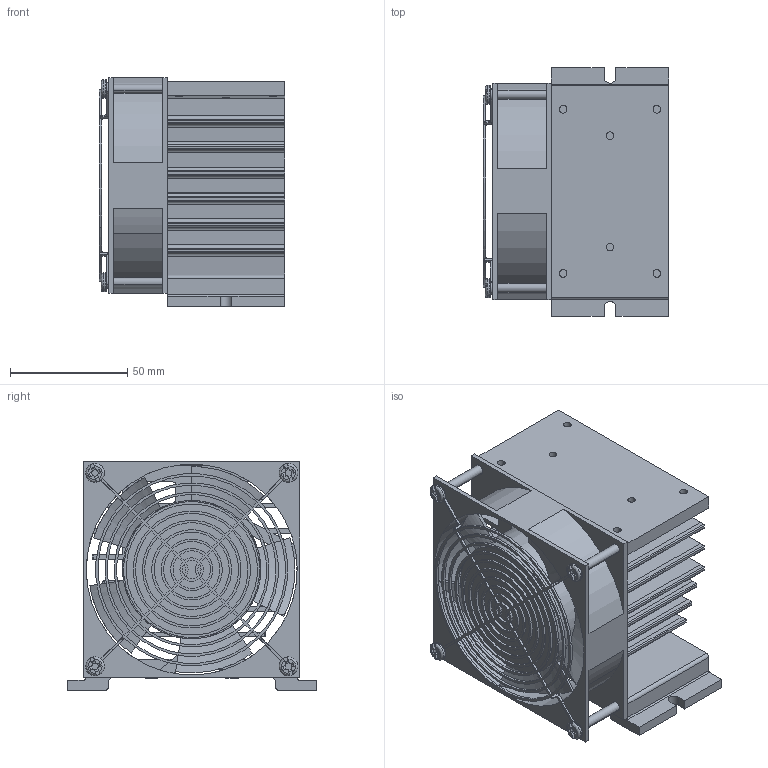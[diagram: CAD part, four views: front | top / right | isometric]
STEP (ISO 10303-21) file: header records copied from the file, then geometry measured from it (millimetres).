
FILE_DESCRIPTION (( 'STEP AP214' ), '1' );
FILE_NAME ('HS_015.STEP', '2024-04-16T09:05:47', ( '' ), ( '' ), 'SwSTEP 2.0', 'SolidWorks 2022', '' );
FILE_SCHEMA (( 'AUTOMOTIVE_DESIGN' ));
Length unit declared in the file: millimetre
Products named in the file (1): HS_015
Bounding box: 79 x 106.2 x 97.46 mm (x, y, z)
Volume: 214624.9 mm3; surface area: 126893.8 mm2
Topology: 1 solids, 2 shells, 798 faces, 2323 edges, 1515 vertices
Faces by surface type: plane 411, cylinder 343, bspline 44
Entity records: 28187 total; most frequent: CARTESIAN_POINT 6700, ORIENTED_EDGE 4646, DIRECTION 4397, EDGE_CURVE 2323, VERTEX_POINT 1515, AXIS2_PLACEMENT_3D 1492, LINE 1413, VECTOR 1413
